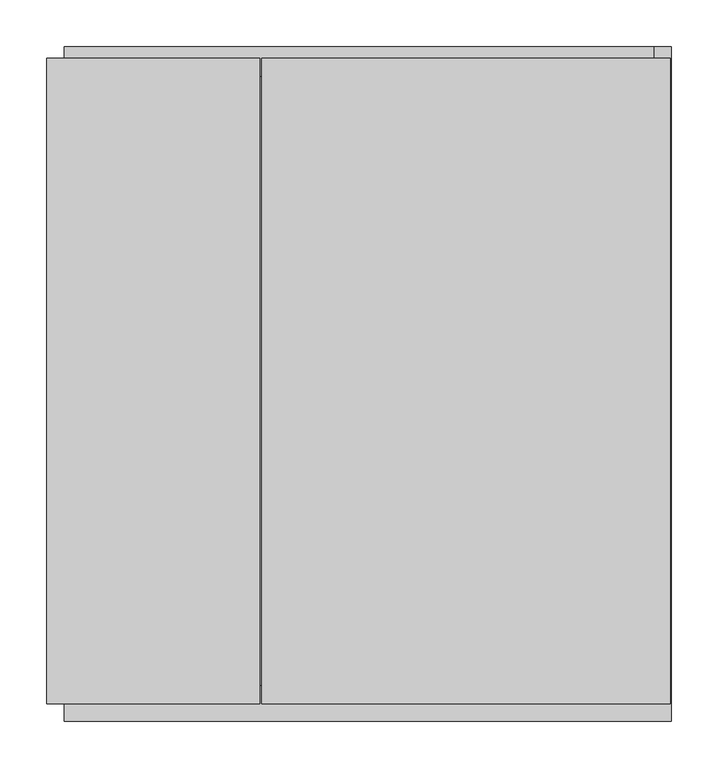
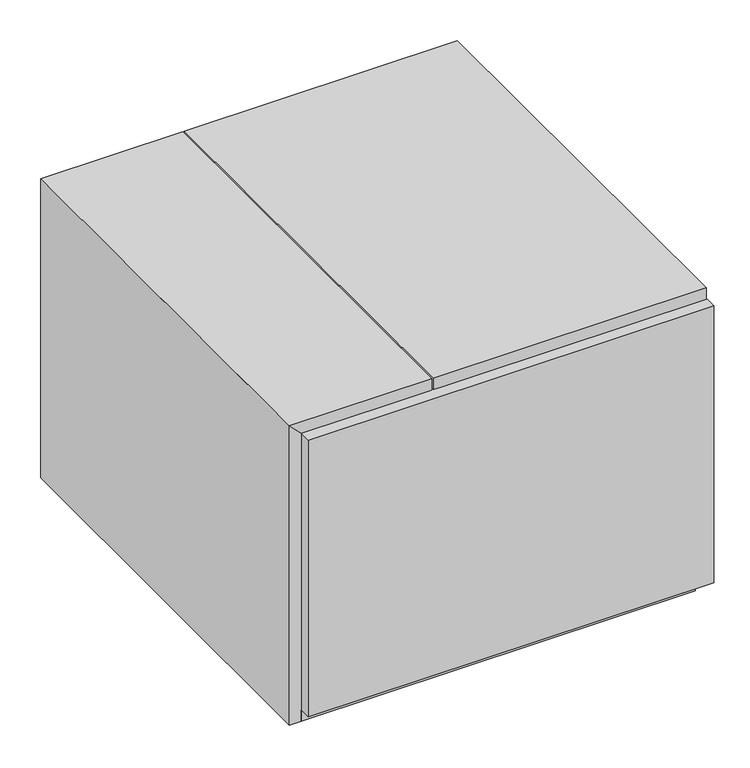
"""IFC4 building model written with IfcOpenShell, lengths in millimetres: proxy geometry, BASYS^U OFFICE 6_ MOD CREDENZA FILLER BOX-SOLID ASSEMBLY."""

from ifc_helpers import new_model, si_unit, frame, origin, origin_with_axes, place, context, project, spatial, polyline, outline, extrude, source, transform, mapped, element, save


def generic_models_950f9a99(model_context):
    return source(origin(), model_context, "Body", "SweptSolid", [
        extrude(outline(polyline([(632.221875, 711.2), (632.221875, 19.05), (0.0, 19.05), (0.0, 711.2), (632.221875, 711.2)])), frame((0.0, 0.0, -488.95), z_axis=(0.0, 0.0, 1.0), x_axis=(1.0, 0.0, 0.0)), (0.0, 0.0, 1.0), 19.05),
        extrude(outline(polyline([(0.0, 209.55), (19.05, 209.55), (19.05, -19.05), (0.0, 0.0), (0.0, 209.55)])), frame((0.0, 19.05, 0.0), z_axis=(0.0, 1.0, 0.0), x_axis=(0.0, 0.0, 1.0)), (0.0, 0.0, 1.0), 692.15),
        extrude(outline(polyline([(632.221875, 723.9), (632.221875, 692.15), (0.0, 692.15), (0.0, 723.9), (632.221875, 723.9)])), frame((0.0, 0.0, -469.9), z_axis=(0.0, 0.0, 1.0), x_axis=(1.0, 0.0, 0.0)), (0.0, 0.0, 1.0), 469.9),
        extrude(outline(polyline([(650.08125, 19.05), (211.93125, 19.05), (211.93125, 711.2), (650.08125, 711.2), (650.08125, 19.05)])), origin_with_axes(), (0.0, 0.0, 1.0), 19.05),
        extrude(outline(polyline([(632.221875, 723.9), (651.271875, 723.9), (651.271875, 38.1), (632.221875, 38.1), (632.221875, 723.9)])), frame((0.0, 0.0, -488.95), z_axis=(0.0, 0.0, 1.0), x_axis=(1.0, 0.0, 0.0)), (0.0, 0.0, 1.0), 488.95),
        extrude(outline(polyline([(0.0, 0.0), (19.05, -19.05), (-488.95, -19.05), (-488.95, 0.0), (0.0, 0.0)])), frame((0.0, 19.05, 0.0), z_axis=(0.0, 1.0, 0.0), x_axis=(0.0, 0.0, 1.0)), (0.0, 0.0, 1.0), 692.15),
        extrude(outline(polyline([(651.271875, 0.0), (0.0, 0.0), (0.0, 38.1), (651.271875, 38.1), (651.271875, 0.0)])), frame((0.0, 0.0, -469.9), z_axis=(0.0, 0.0, 1.0), x_axis=(1.0, 0.0, 0.0)), (0.0, 0.0, 1.0), 469.9),
    ])


if __name__ == "__main__":
    model = new_model("IFC4")
    model_context = context("Model", 3, world=origin())
    ifc_project = project(units=[si_unit("LENGTHUNIT", "METRE", prefix="MILLI")], contexts=[model_context])
    site = spatial("IfcSite", under=ifc_project)
    building = spatial("IfcBuilding", under=site)
    placement = place(None, origin())
    generic_models_shape = generic_models_950f9a99(model_context)
    element("IfcBuildingElementProxy", 1, Name="BASYS^U OFFICE 6_ MOD CREDENZA FILLER BOX-SOLID ASSEMBLY", ObjectType="BASYS^U OFFICE 6_ MOD CREDENZA FILLER BOX-SOLID ASSEMBLY", at=placement, inside=building, context=model_context, shape_type="MappedRepresentation", body=[
        mapped(generic_models_shape, transform((0.0, 0.0, 0.0), x_axis=(1.0, 0.0, 0.0), y_axis=(0.0, 1.0, 0.0), z_axis=(0.0, 0.0, 1.0))),
    ])
    save(model, "model.ifc")
